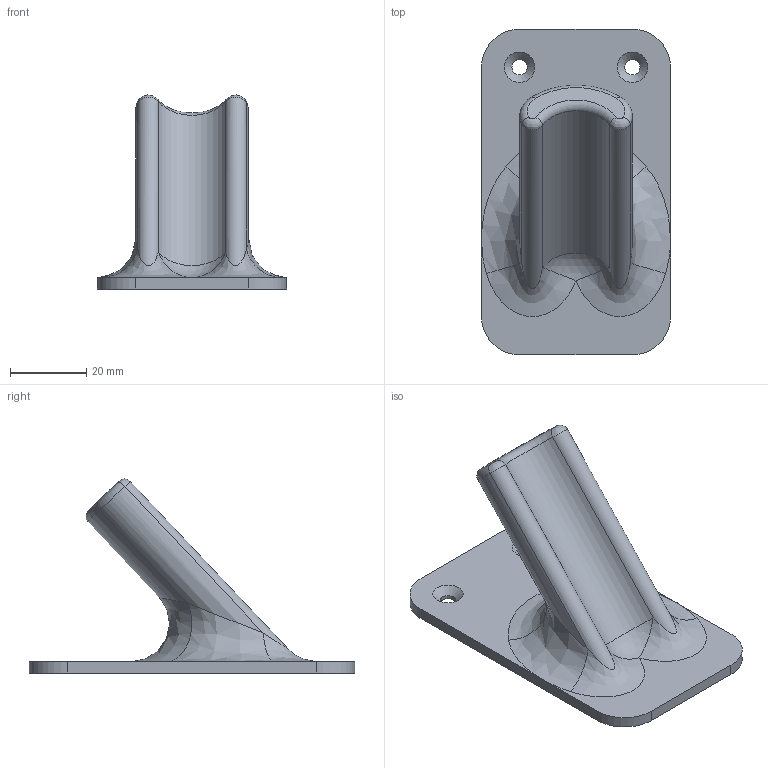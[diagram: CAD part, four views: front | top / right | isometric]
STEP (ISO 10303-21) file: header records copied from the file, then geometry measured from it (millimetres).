
FILE_DESCRIPTION(/* description */ (''),/* implementation_level */ '2;1');
FILE_NAME(/* name */ 'D:\Users\User\Documents\Inventor Projects\ViveWallMount\WallMountSingle.stp',/* time_stamp */ '2016-04-14T17:27:51+02:00',/* author */ ('User'),/* organization */ (''),/* preprocessor_version */ 'ST-DEVELOPER v16.1',/* originating_system */ 'Autodesk Inventor 2016',/* authorisation */ '');
FILE_SCHEMA (('AUTOMOTIVE_DESIGN { 1 0 10303 214 3 1 1 }'));
Length unit declared in the file: millimetre
Products named in the file (1): WallMountSingle
Bounding box: 49.6 x 85.44 x 50.92 mm (x, y, z)
Volume: 33372.3 mm3; surface area: 13109.4 mm2
Topology: 1 solids, 1 shells, 34 faces, 81 edges, 49 vertices
Faces by surface type: cylinder 12, plane 8, bspline 7, torus 4, cone 2, sphere 1
Full cylindrical faces by diameter (mm): 4 x2
Entity records: 1241 total; most frequent: CARTESIAN_POINT 431, DIRECTION 182, ORIENTED_EDGE 150, AXIS2_PLACEMENT_3D 79, EDGE_CURVE 75, VERTEX_POINT 47, EDGE_LOOP 42, CIRCLE 39
